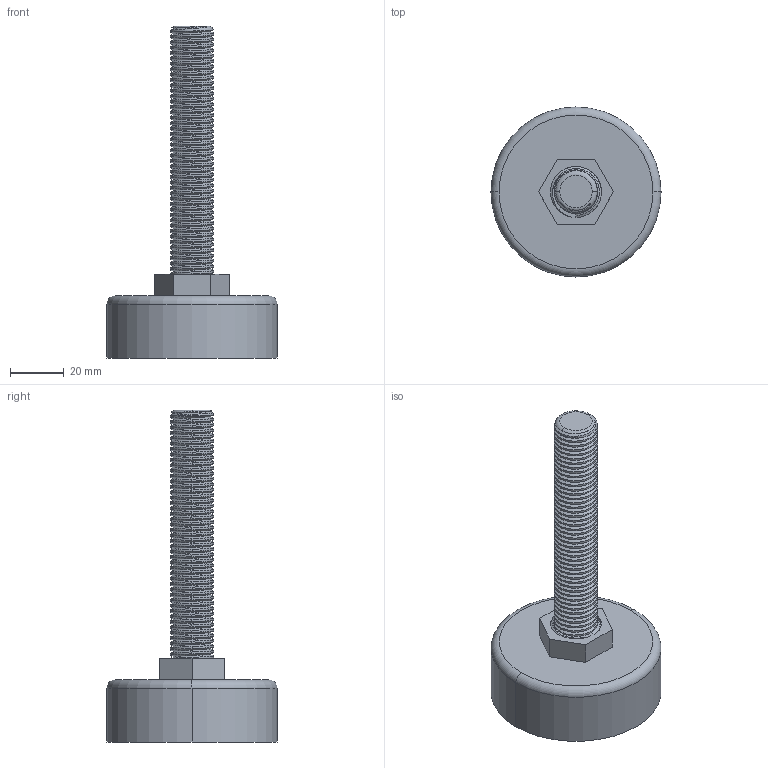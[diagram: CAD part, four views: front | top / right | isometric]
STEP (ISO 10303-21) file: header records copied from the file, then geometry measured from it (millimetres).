
FILE_DESCRIPTION (( 'STEP AP203' ), '1' );
FILE_NAME ('222-CE-UAF-16.STEP', '2015-07-09T09:30:25', ( '' ), ( '' ), 'SwSTEP 2.0', 'SolidWorks 2013', '' );
FILE_SCHEMA (( 'CONFIG_CONTROL_DESIGN' ));
Length unit declared in the file: millimetre
Products named in the file (1): 222-CE-UAF-16
Bounding box: 63 x 63 x 123 mm (x, y, z)
Volume: 92210.6 mm3; surface area: 18351.8 mm2
Topology: 1 solids, 1 shells, 117 faces, 336 edges, 223 vertices
Faces by surface type: cylinder 98, plane 11, torus 5, bspline 3
Entity records: 10388 total; most frequent: CARTESIAN_POINT 7815, ORIENTED_EDGE 672, DIRECTION 390, EDGE_CURVE 336, VERTEX_POINT 223, AXIS2_PLACEMENT_3D 135, LINE 120, VECTOR 120
